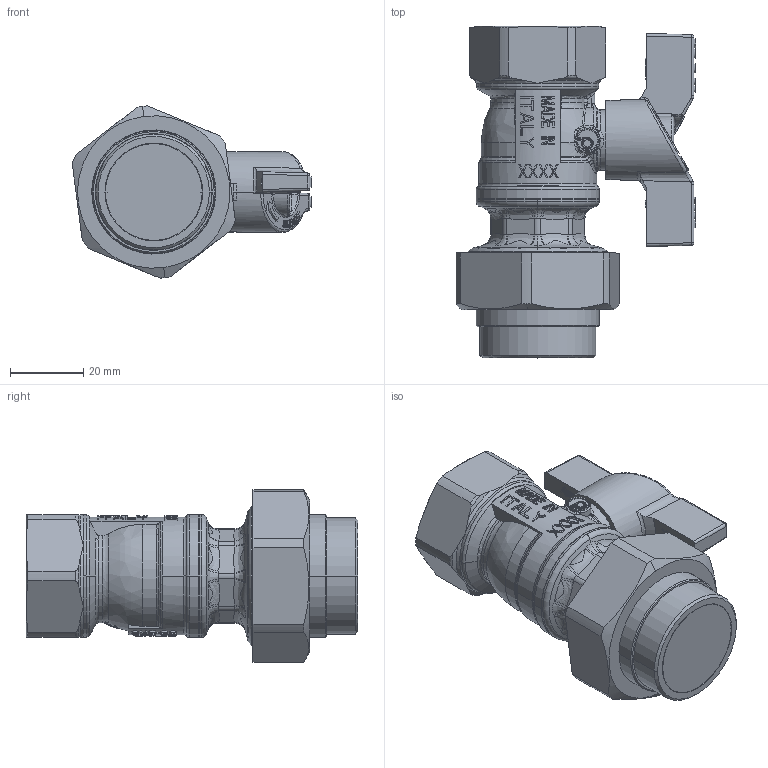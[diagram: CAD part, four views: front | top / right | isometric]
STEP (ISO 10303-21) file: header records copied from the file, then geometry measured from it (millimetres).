
FILE_DESCRIPTION((''),'2;1');
FILE_NAME('T204FU_3-4_ASM','2022-05-19T17:06:09',('Sergio.Dandrea'),(''),'CREO PARAMETRIC BY PTC INC, 2021164','CREO PARAMETRIC BY PTC INC, 2021164','');
FILE_SCHEMA(('CONFIG_CONTROL_DESIGN'));
Products named in the file (13): 12002; 12017; 12018; 12019; 12020; 12068; 87057; 03074; SEDE_PTFE_F15; OR_107_8_25X1_475; 89176; 87131; T204FU_3-4_ASM
Assembly tree (14 placements, depth 2):
  T204FU_3-4_ASM
    12002
    12017
    12018
    12019
    12020
    12068
    87057
    03074
    SEDE_PTFE_F15  x2
    OR_107_8_25X1_475  x2
    89176
    87131
Bounding box: 65.2 x 90.3 x 46.88 mm (x, y, z)
Volume: 63291.6 mm3; surface area: 46842 mm2
Topology: 14 solids, 22 shells, 1972 faces, 5165 edges, 3321 vertices
Faces by surface type: plane 648, bspline 534, extrusion 311, cylinder 228, torus 120, cone 105, revolution 16, sphere 10
Entity records: 82201 total; most frequent: CARTESIAN_POINT 38684, ORIENTED_EDGE 10198, DIRECTION 6739, EDGE_CURVE 5119, VERTEX_POINT 3297, VECTOR 2427, B_SPLINE_CURVE_WITH_KNOTS 2306, AXIS2_PLACEMENT_3D 2152
